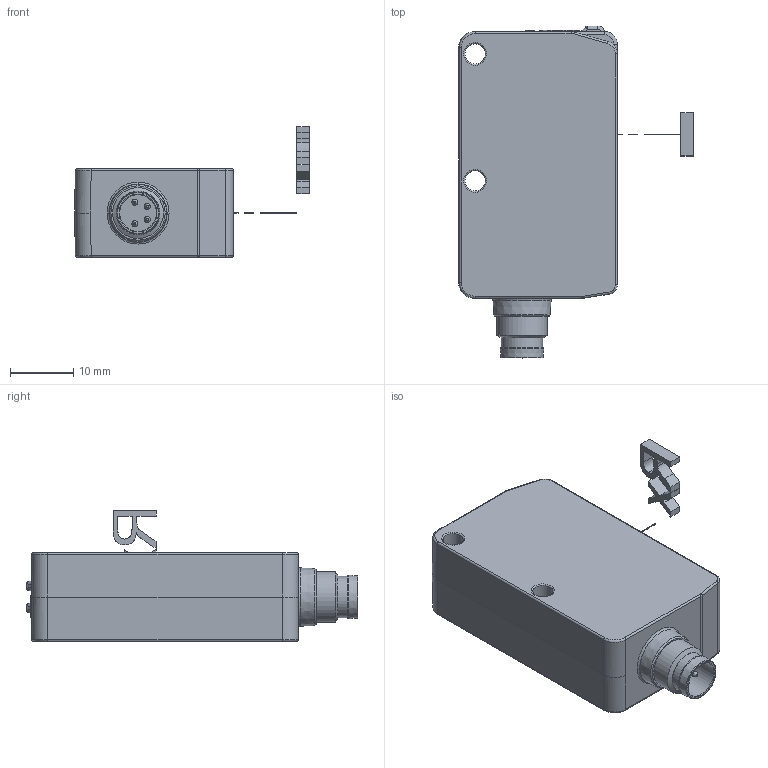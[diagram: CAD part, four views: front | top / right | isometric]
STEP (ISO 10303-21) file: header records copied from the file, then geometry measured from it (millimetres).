
FILE_DESCRIPTION(/* description */ (''),/* implementation_level */ '2;1');
FILE_NAME(/* name */ 'DSD-0443.stp',/* time_stamp */ '2020-09-28T10:08:44+02:00',/* author */ (''),/* organization */ (''),/* preprocessor_version */ 'ST-DEVELOPER v16.7',/* originating_system */ 'SIEMENS PLM Software NX 12.0',/* authorisation */ '');
FILE_SCHEMA (('AUTOMOTIVE_DESIGN { 1 0 10303 214 3 1 1 1 }'));
Length unit declared in the file: millimetre
Products named in the file (1): MBra288C2CC8cxah
Bounding box: 37 x 52.3 x 20.63 mm (x, y, z)
Volume: 14719.1 mm3; surface area: 4977.4 mm2
Topology: 3 solids, 6 shells, 393 faces, 982 edges, 610 vertices
Faces by surface type: cylinder 145, plane 114, bspline 108, torus 11, cone 9, sphere 6
Full cylindrical faces by diameter (mm): 0.95 x4, 1.4 x2, 2.85 x2, 2.95 x2, 3.2 x2, 5.77 x1, 6.52 x1, 6.9 x1, 8 x1
Entity records: 15289 total; most frequent: CARTESIAN_POINT 4202, ORIENTED_EDGE 1819, DIRECTION 1495, EDGE_CURVE 912, AXIS2_PLACEMENT_3D 593, VERTEX_POINT 592, EDGE_LOOP 465, PRESENTATION_STYLE_ASSIGNMENT 396
